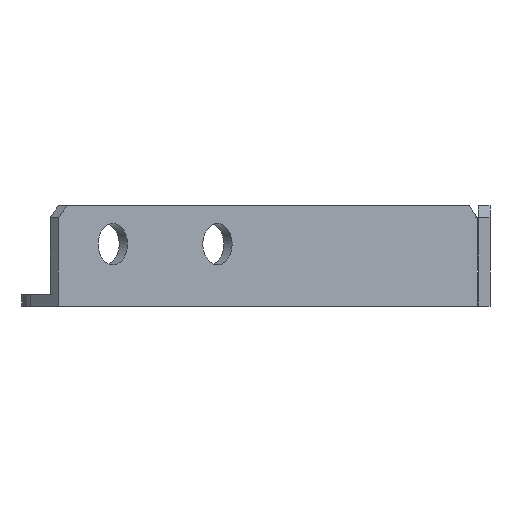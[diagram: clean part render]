
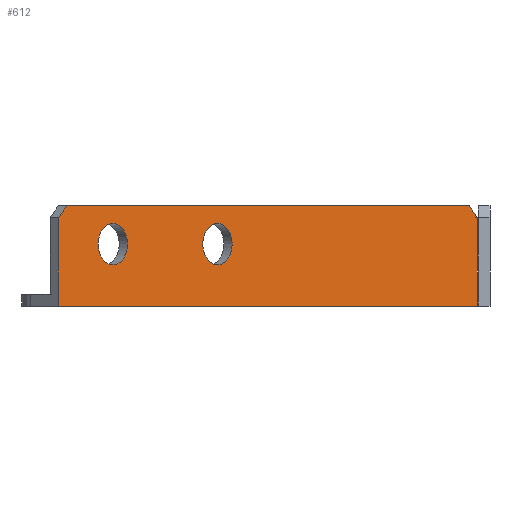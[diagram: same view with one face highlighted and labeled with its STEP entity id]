
A CAD part, left-side view. The second image highlights one B-rep face of the part: STEP entity #612.
In plain terms, the highlighted planar face has unit normal (-0.707, -0.707, 0).
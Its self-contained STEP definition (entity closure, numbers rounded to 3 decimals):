
#5 = PLANE ( 'NONE',  #526 ) ;
#9 = VERTEX_POINT ( 'NONE', #726 ) ;
#10 = FACE_OUTER_BOUND ( 'NONE', #769, .T. ) ;
#15 = LINE ( 'NONE', #605, #342 ) ;
#16 = EDGE_CURVE ( 'NONE', #556, #556, #709, .T. ) ;
#20 = LINE ( 'NONE', #373, #76 ) ;
#25 = AXIS2_PLACEMENT_3D ( 'NONE', #243, #599, #81 ) ;
#29 = CARTESIAN_POINT ( 'NONE',  ( -71.505, 71.505, 6.5 ) ) ;
#76 = VECTOR ( 'NONE', #145, 1000. ) ;
#81 = DIRECTION ( 'NONE',  ( -0.707, 0.707, 0. ) ) ;
#98 = CIRCLE ( 'NONE', #719, 3.5 ) ;
#100 = VECTOR ( 'NONE', #468, 1000. ) ;
#113 = CARTESIAN_POINT ( 'NONE',  ( -2.133, 2.133, -10.5 ) ) ;
#126 = LINE ( 'NONE', #492, #365 ) ;
#129 = DIRECTION ( 'NONE',  ( 0., 0., -1. ) ) ;
#140 = EDGE_LOOP ( 'NONE', ( #587 ) ) ;
#144 = ORIENTED_EDGE ( 'NONE', *, *, #759, .F. ) ;
#145 = DIRECTION ( 'NONE',  ( -0.5, 0.5, 0.707 ) ) ;
#170 = EDGE_CURVE ( 'NONE', #570, #558, #224, .T. ) ;
#171 = VERTEX_POINT ( 'NONE', #113 ) ;
#184 = FACE_BOUND ( 'NONE', #140, .T. ) ;
#199 = VECTOR ( 'NONE', #483, 1000. ) ;
#200 = DIRECTION ( 'NONE',  ( 0.707, -0.707, 0. ) ) ;
#205 = ORIENTED_EDGE ( 'NONE', *, *, #282, .T. ) ;
#224 = LINE ( 'NONE', #522, #100 ) ;
#243 = CARTESIAN_POINT ( 'NONE',  ( -46.049, 46.049, 0. ) ) ;
#245 = EDGE_CURVE ( 'NONE', #283, #570, #598, .T. ) ;
#248 = DIRECTION ( 'NONE',  ( 0.707, 0.707, 0. ) ) ;
#271 = EDGE_LOOP ( 'NONE', ( #383 ) ) ;
#282 = EDGE_CURVE ( 'NONE', #9, #766, #20, .T. ) ;
#283 = VERTEX_POINT ( 'NONE', #29 ) ;
#285 = CARTESIAN_POINT ( 'NONE',  ( -63.727, 63.727, 0. ) ) ;
#289 = DIRECTION ( 'NONE',  ( 0.707, 0.707, 0. ) ) ;
#298 = FACE_BOUND ( 'NONE', #271, .T. ) ;
#317 = CARTESIAN_POINT ( 'NONE',  ( 0., 0., 6.5 ) ) ;
#342 = VECTOR ( 'NONE', #129, 1000. ) ;
#351 = ORIENTED_EDGE ( 'NONE', *, *, #747, .T. ) ;
#353 = DIRECTION ( 'NONE',  ( -0.707, 0.707, 0. ) ) ;
#365 = VECTOR ( 'NONE', #200, 1000. ) ;
#372 = ORIENTED_EDGE ( 'NONE', *, *, #664, .F. ) ;
#373 = CARTESIAN_POINT ( 'NONE',  ( -3.547, 3.547, 6.5 ) ) ;
#383 = ORIENTED_EDGE ( 'NONE', *, *, #16, .T. ) ;
#388 = LINE ( 'NONE', #317, #617 ) ;
#407 = CARTESIAN_POINT ( 'NONE',  ( -71.505, 71.505, 6.5 ) ) ;
#416 = DIRECTION ( 'NONE',  ( -0.707, 0.707, 0. ) ) ;
#433 = CARTESIAN_POINT ( 'NONE',  ( 0., 0., 6.5 ) ) ;
#437 = CARTESIAN_POINT ( 'NONE',  ( -3.547, 3.547, 6.5 ) ) ;
#460 = CARTESIAN_POINT ( 'NONE',  ( -72.919, 72.919, 4.5 ) ) ;
#468 = DIRECTION ( 'NONE',  ( 0., 0., -1. ) ) ;
#483 = DIRECTION ( 'NONE',  ( -0.5, 0.5, -0.707 ) ) ;
#492 = CARTESIAN_POINT ( 'NONE',  ( 0., 0., -10.5 ) ) ;
#500 = VERTEX_POINT ( 'NONE', #683 ) ;
#522 = CARTESIAN_POINT ( 'NONE',  ( -72.919, 72.919, 6.5 ) ) ;
#526 = AXIS2_PLACEMENT_3D ( 'NONE', #433, #248, #416 ) ;
#556 = VERTEX_POINT ( 'NONE', #679 ) ;
#558 = VERTEX_POINT ( 'NONE', #580 ) ;
#570 = VERTEX_POINT ( 'NONE', #460 ) ;
#580 = CARTESIAN_POINT ( 'NONE',  ( -72.919, 72.919, -10.5 ) ) ;
#586 = EDGE_CURVE ( 'NONE', #500, #500, #98, .T. ) ;
#587 = ORIENTED_EDGE ( 'NONE', *, *, #586, .T. ) ;
#598 = LINE ( 'NONE', #407, #199 ) ;
#599 = DIRECTION ( 'NONE',  ( 0.707, 0.707, 0. ) ) ;
#605 = CARTESIAN_POINT ( 'NONE',  ( -2.133, 2.133, 6.501 ) ) ;
#612 = ADVANCED_FACE ( 'NONE', ( #10, #184, #298 ), #5, .F. ) ;
#617 = VECTOR ( 'NONE', #735, 1000. ) ;
#664 = EDGE_CURVE ( 'NONE', #9, #171, #15, .T. ) ;
#679 = CARTESIAN_POINT ( 'NONE',  ( -48.524, 48.524, 0. ) ) ;
#683 = CARTESIAN_POINT ( 'NONE',  ( -66.201, 66.201, 0. ) ) ;
#709 = CIRCLE ( 'NONE', #25, 3.5 ) ;
#719 = AXIS2_PLACEMENT_3D ( 'NONE', #285, #289, #353 ) ;
#726 = CARTESIAN_POINT ( 'NONE',  ( -2.133, 2.133, 4.5 ) ) ;
#734 = ORIENTED_EDGE ( 'NONE', *, *, #170, .T. ) ;
#735 = DIRECTION ( 'NONE',  ( 0.707, -0.707, 0. ) ) ;
#745 = ORIENTED_EDGE ( 'NONE', *, *, #245, .T. ) ;
#747 = EDGE_CURVE ( 'NONE', #558, #171, #126, .T. ) ;
#759 = EDGE_CURVE ( 'NONE', #283, #766, #388, .T. ) ;
#766 = VERTEX_POINT ( 'NONE', #437 ) ;
#769 = EDGE_LOOP ( 'NONE', ( #372, #205, #144, #745, #734, #351 ) ) ;
